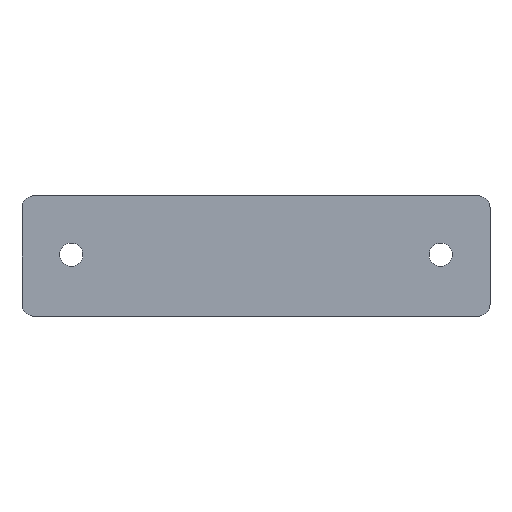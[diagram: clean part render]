
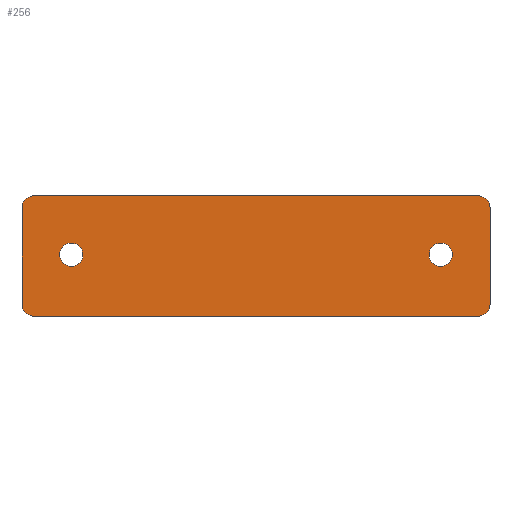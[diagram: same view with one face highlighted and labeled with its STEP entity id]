
A CAD part, top view. The second image highlights one B-rep face of the part: STEP entity #256.
In plain terms, the highlighted planar face has unit normal (0, 0, 1).
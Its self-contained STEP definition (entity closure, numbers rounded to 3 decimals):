
#43=FACE_BOUND('',#77,.T.);
#44=FACE_BOUND('',#78,.T.);
#50=PLANE('',#303);
#62=FACE_OUTER_BOUND('',#76,.T.);
#76=EDGE_LOOP('',(#229,#230,#231,#232,#233,#234,#235,#236));
#77=EDGE_LOOP('',(#237));
#78=EDGE_LOOP('',(#238));
#83=LINE('',#405,#101);
#89=LINE('',#430,#107);
#95=LINE('',#449,#113);
#96=LINE('',#451,#114);
#101=VECTOR('',#324,10.);
#107=VECTOR('',#348,10.);
#113=VECTOR('',#372,10.);
#114=VECTOR('',#375,10.);
#115=CIRCLE('',#281,5.);
#122=CIRCLE('',#291,5.);
#123=CIRCLE('',#294,5.);
#124=CIRCLE('',#296,5.);
#125=CIRCLE('',#298,4.75);
#126=CIRCLE('',#300,4.75);
#129=VERTEX_POINT('',#392);
#130=VERTEX_POINT('',#393);
#134=VERTEX_POINT('',#403);
#142=VERTEX_POINT('',#423);
#143=VERTEX_POINT('',#424);
#144=VERTEX_POINT('',#429);
#145=VERTEX_POINT('',#433);
#146=VERTEX_POINT('',#437);
#147=VERTEX_POINT('',#441);
#148=VERTEX_POINT('',#445);
#149=EDGE_CURVE('',#129,#130,#115,.T.);
#155=EDGE_CURVE('',#129,#134,#83,.T.);
#164=EDGE_CURVE('',#142,#143,#122,.T.);
#167=EDGE_CURVE('',#144,#143,#89,.T.);
#169=EDGE_CURVE('',#144,#145,#123,.T.);
#171=EDGE_CURVE('',#146,#134,#124,.T.);
#173=EDGE_CURVE('',#147,#147,#125,.T.);
#175=EDGE_CURVE('',#148,#148,#126,.T.);
#177=EDGE_CURVE('',#146,#145,#95,.T.);
#178=EDGE_CURVE('',#142,#130,#96,.T.);
#229=ORIENTED_EDGE('',*,*,#149,.F.);
#230=ORIENTED_EDGE('',*,*,#155,.T.);
#231=ORIENTED_EDGE('',*,*,#171,.F.);
#232=ORIENTED_EDGE('',*,*,#177,.T.);
#233=ORIENTED_EDGE('',*,*,#169,.F.);
#234=ORIENTED_EDGE('',*,*,#167,.T.);
#235=ORIENTED_EDGE('',*,*,#164,.F.);
#236=ORIENTED_EDGE('',*,*,#178,.T.);
#237=ORIENTED_EDGE('',*,*,#175,.T.);
#238=ORIENTED_EDGE('',*,*,#173,.T.);
#256=ADVANCED_FACE('',(#62,#43,#44),#50,.T.);
#281=AXIS2_PLACEMENT_3D('',#394,#314,#315);
#291=AXIS2_PLACEMENT_3D('',#425,#342,#343);
#294=AXIS2_PLACEMENT_3D('',#434,#352,#353);
#296=AXIS2_PLACEMENT_3D('',#438,#357,#358);
#298=AXIS2_PLACEMENT_3D('',#442,#362,#363);
#300=AXIS2_PLACEMENT_3D('',#446,#367,#368);
#303=AXIS2_PLACEMENT_3D('',#452,#376,#377);
#314=DIRECTION('center_axis',(0.,0.,-1.));
#315=DIRECTION('ref_axis',(0.707,0.707,0.));
#324=DIRECTION('',(-1.,0.,0.));
#342=DIRECTION('center_axis',(0.,0.,-1.));
#343=DIRECTION('ref_axis',(0.707,-0.707,0.));
#348=DIRECTION('',(1.,0.,0.));
#352=DIRECTION('center_axis',(0.,0.,-1.));
#353=DIRECTION('ref_axis',(-0.707,-0.707,0.));
#357=DIRECTION('center_axis',(0.,0.,-1.));
#358=DIRECTION('ref_axis',(-0.707,0.707,0.));
#362=DIRECTION('center_axis',(0.,0.,-1.));
#363=DIRECTION('ref_axis',(-1.,0.,0.));
#367=DIRECTION('center_axis',(0.,0.,-1.));
#368=DIRECTION('ref_axis',(-1.,0.,0.));
#372=DIRECTION('',(0.,-1.,0.));
#375=DIRECTION('',(0.,1.,0.));
#376=DIRECTION('center_axis',(0.,0.,1.));
#377=DIRECTION('ref_axis',(1.,0.,0.));
#392=CARTESIAN_POINT('',(90.,24.5,0.25));
#393=CARTESIAN_POINT('',(95.,19.5,0.25));
#394=CARTESIAN_POINT('Origin',(90.,19.5,0.25));
#403=CARTESIAN_POINT('',(-90.,24.5,0.25));
#405=CARTESIAN_POINT('',(95.,24.5,0.25));
#423=CARTESIAN_POINT('',(95.,-19.5,0.25));
#424=CARTESIAN_POINT('',(90.,-24.5,0.25));
#425=CARTESIAN_POINT('Origin',(90.,-19.5,0.25));
#429=CARTESIAN_POINT('',(-90.,-24.5,0.25));
#430=CARTESIAN_POINT('',(-95.,-24.5,0.25));
#433=CARTESIAN_POINT('',(-95.,-19.5,0.25));
#434=CARTESIAN_POINT('Origin',(-90.,-19.5,0.25));
#437=CARTESIAN_POINT('',(-95.,19.5,0.25));
#438=CARTESIAN_POINT('Origin',(-90.,19.5,0.25));
#441=CARTESIAN_POINT('',(79.75,0.5,0.25));
#442=CARTESIAN_POINT('Origin',(75.,0.5,0.25));
#445=CARTESIAN_POINT('',(-70.25,0.5,0.25));
#446=CARTESIAN_POINT('Origin',(-75.,0.5,0.25));
#449=CARTESIAN_POINT('',(-95.,24.5,0.25));
#451=CARTESIAN_POINT('',(95.,-24.5,0.25));
#452=CARTESIAN_POINT('Origin',(-47.5,0.,0.25));
